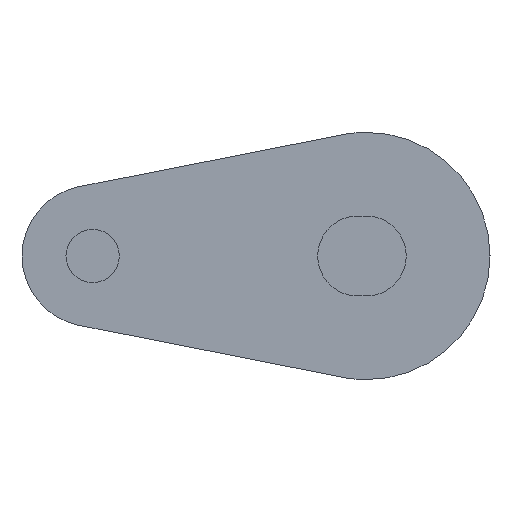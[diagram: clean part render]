
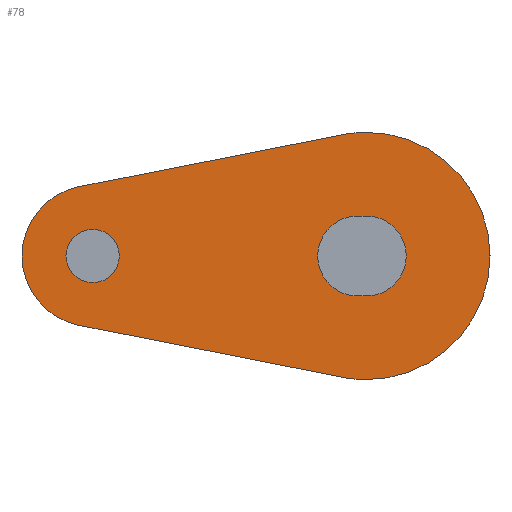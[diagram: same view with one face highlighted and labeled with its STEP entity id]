
A CAD part, left-side view. The second image highlights one B-rep face of the part: STEP entity #78.
In plain terms, the highlighted planar face has unit normal (-1, 0, 0).
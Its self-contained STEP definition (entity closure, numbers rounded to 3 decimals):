
#12 = CIRCLE ( 'NONE', #102, 7. ) ;
#13 = VECTOR ( 'NONE', #944, 1000. ) ;
#29 = CIRCLE ( 'NONE', #147, 7. ) ;
#41 = LINE ( 'NONE', #943, #13 ) ;
#78 = ADVANCED_FACE ( 'NONE', ( #577, #574, #572 ), #345, .T. ) ;
#89 = AXIS2_PLACEMENT_3D ( 'NONE', #339, #337, #336 ) ;
#93 = EDGE_CURVE ( 'NONE', #487, #467, #559, .T. ) ;
#102 = AXIS2_PLACEMENT_3D ( 'NONE', #986, #960, #976 ) ;
#113 = EDGE_CURVE ( 'NONE', #467, #465, #538, .T. ) ;
#117 = EDGE_CURVE ( 'NONE', #432, #428, #531, .T. ) ;
#132 = AXIS2_PLACEMENT_3D ( 'NONE', #268, #261, #260 ) ;
#136 = EDGE_CURVE ( 'NONE', #461, #473, #525, .T. ) ;
#137 = EDGE_CURVE ( 'NONE', #409, #487, #518, .T. ) ;
#147 = AXIS2_PLACEMENT_3D ( 'NONE', #1001, #896, #936 ) ;
#149 = AXIS2_PLACEMENT_3D ( 'NONE', #835, #834, #973 ) ;
#154 = AXIS2_PLACEMENT_3D ( 'NONE', #921, #820, #819 ) ;
#164 = EDGE_CURVE ( 'NONE', #412, #443, #513, .T. ) ;
#176 = EDGE_CURVE ( 'NONE', #490, #430, #500, .T. ) ;
#181 = EDGE_CURVE ( 'NONE', #465, #409, #41, .T. ) ;
#185 = AXIS2_PLACEMENT_3D ( 'NONE', #916, #926, #928 ) ;
#196 = EDGE_CURVE ( 'NONE', #430, #432, #29, .T. ) ;
#216 = AXIS2_PLACEMENT_3D ( 'NONE', #276, #270, #269 ) ;
#217 = EDGE_CURVE ( 'NONE', #428, #461, #12, .T. ) ;
#226 = AXIS2_PLACEMENT_3D ( 'NONE', #927, #932, #933 ) ;
#233 = EDGE_CURVE ( 'NONE', #473, #490, #1070, .T. ) ;
#236 = EDGE_CURVE ( 'NONE', #443, #412, #1066, .T. ) ;
#260 = DIRECTION ( 'NONE',  ( 0., 0., -1. ) ) ;
#261 = DIRECTION ( 'NONE',  ( 1., 0., 0. ) ) ;
#268 = CARTESIAN_POINT ( 'NONE',  ( -432.5, 0., 0. ) ) ;
#269 = DIRECTION ( 'NONE',  ( 0., 0., -1. ) ) ;
#270 = DIRECTION ( 'NONE',  ( 1., 0., 0. ) ) ;
#276 = CARTESIAN_POINT ( 'NONE',  ( -432.5, 0., 0. ) ) ;
#301 = DIRECTION ( 'NONE',  ( 0., -1., 0. ) ) ;
#313 = CARTESIAN_POINT ( 'NONE',  ( -432.5, 0.5, 2.26 ) ) ;
#336 = DIRECTION ( 'NONE',  ( 0., 0., -1. ) ) ;
#337 = DIRECTION ( 'NONE',  ( -1., 0., 0. ) ) ;
#339 = CARTESIAN_POINT ( 'NONE',  ( -432.5, 15.5, 0. ) ) ;
#345 = PLANE ( 'NONE',  #89 ) ;
#409 = VERTEX_POINT ( 'NONE', #1020 ) ;
#412 = VERTEX_POINT ( 'NONE', #1005 ) ;
#428 = VERTEX_POINT ( 'NONE', #828 ) ;
#430 = VERTEX_POINT ( 'NONE', #875 ) ;
#432 = VERTEX_POINT ( 'NONE', #842 ) ;
#443 = VERTEX_POINT ( 'NONE', #825 ) ;
#461 = VERTEX_POINT ( 'NONE', #818 ) ;
#465 = VERTEX_POINT ( 'NONE', #996 ) ;
#467 = VERTEX_POINT ( 'NONE', #873 ) ;
#473 = VERTEX_POINT ( 'NONE', #867 ) ;
#487 = VERTEX_POINT ( 'NONE', #869 ) ;
#490 = VERTEX_POINT ( 'NONE', #843 ) ;
#498 = VECTOR ( 'NONE', #850, 1000. ) ;
#500 = LINE ( 'NONE', #810, #498 ) ;
#513 = CIRCLE ( 'NONE', #154, 1.51 ) ;
#518 = CIRCLE ( 'NONE', #149, 2.26 ) ;
#521 = VECTOR ( 'NONE', #893, 1000. ) ;
#525 = LINE ( 'NONE', #899, #521 ) ;
#531 = CIRCLE ( 'NONE', #132, 7. ) ;
#538 = CIRCLE ( 'NONE', #216, 2.26 ) ;
#559 = LINE ( 'NONE', #313, #562 ) ;
#562 = VECTOR ( 'NONE', #301, 1000. ) ;
#572 = FACE_OUTER_BOUND ( 'NONE', #664, .T. ) ;
#574 = FACE_BOUND ( 'NONE', #718, .T. ) ;
#577 = FACE_BOUND ( 'NONE', #717, .T. ) ;
#664 = EDGE_LOOP ( 'NONE', ( #1047, #1033, #1035, #1034, #1032, #1056 ) ) ;
#717 = EDGE_LOOP ( 'NONE', ( #1061, #1060, #1053, #1042 ) ) ;
#718 = EDGE_LOOP ( 'NONE', ( #1036, #1046 ) ) ;
#810 = CARTESIAN_POINT ( 'NONE',  ( -432.5, 16.274, 3.924 ) ) ;
#818 = CARTESIAN_POINT ( 'NONE',  ( -432.5, 1.355, -6.868 ) ) ;
#819 = DIRECTION ( 'NONE',  ( 0., 0., -1. ) ) ;
#820 = DIRECTION ( 'NONE',  ( 1., 0., 0. ) ) ;
#825 = CARTESIAN_POINT ( 'NONE',  ( -432.5, 15.5, 1.51 ) ) ;
#828 = CARTESIAN_POINT ( 'NONE',  ( -432.5, 0., -7. ) ) ;
#834 = DIRECTION ( 'NONE',  ( 1., 0., 0. ) ) ;
#835 = CARTESIAN_POINT ( 'NONE',  ( -432.5, 0.5, 0. ) ) ;
#842 = CARTESIAN_POINT ( 'NONE',  ( -432.5, 0., 7. ) ) ;
#843 = CARTESIAN_POINT ( 'NONE',  ( -432.5, 16.274, 3.924 ) ) ;
#850 = DIRECTION ( 'NONE',  ( 0., -0.981, 0.194 ) ) ;
#867 = CARTESIAN_POINT ( 'NONE',  ( -432.5, 16.274, -3.924 ) ) ;
#869 = CARTESIAN_POINT ( 'NONE',  ( -432.5, 0.5, 2.26 ) ) ;
#873 = CARTESIAN_POINT ( 'NONE',  ( -432.5, 0., 2.26 ) ) ;
#875 = CARTESIAN_POINT ( 'NONE',  ( -432.5, 1.355, 6.868 ) ) ;
#893 = DIRECTION ( 'NONE',  ( 0., 0.981, 0.194 ) ) ;
#896 = DIRECTION ( 'NONE',  ( 1., 0., 0. ) ) ;
#899 = CARTESIAN_POINT ( 'NONE',  ( -432.5, 1.355, -6.868 ) ) ;
#916 = CARTESIAN_POINT ( 'NONE',  ( -432.5, 15.5, 0. ) ) ;
#921 = CARTESIAN_POINT ( 'NONE',  ( -432.5, 15.5, 0. ) ) ;
#926 = DIRECTION ( 'NONE',  ( 1., 0., 0. ) ) ;
#927 = CARTESIAN_POINT ( 'NONE',  ( -432.5, 15.5, 0. ) ) ;
#928 = DIRECTION ( 'NONE',  ( 0., 0., -1. ) ) ;
#932 = DIRECTION ( 'NONE',  ( 1., 0., 0. ) ) ;
#933 = DIRECTION ( 'NONE',  ( 0., 0., -1. ) ) ;
#936 = DIRECTION ( 'NONE',  ( 0., 0., -1. ) ) ;
#943 = CARTESIAN_POINT ( 'NONE',  ( -432.5, 0.5, -2.26 ) ) ;
#944 = DIRECTION ( 'NONE',  ( 0., 1., 0. ) ) ;
#960 = DIRECTION ( 'NONE',  ( 1., 0., 0. ) ) ;
#973 = DIRECTION ( 'NONE',  ( 0., 0., -1. ) ) ;
#976 = DIRECTION ( 'NONE',  ( 0., 0., -1. ) ) ;
#986 = CARTESIAN_POINT ( 'NONE',  ( -432.5, 0., 0. ) ) ;
#996 = CARTESIAN_POINT ( 'NONE',  ( -432.5, 0., -2.26 ) ) ;
#1001 = CARTESIAN_POINT ( 'NONE',  ( -432.5, 0., 0. ) ) ;
#1005 = CARTESIAN_POINT ( 'NONE',  ( -432.5, 15.5, -1.51 ) ) ;
#1020 = CARTESIAN_POINT ( 'NONE',  ( -432.5, 0.5, -2.26 ) ) ;
#1032 = ORIENTED_EDGE ( 'NONE', *, *, #196, .F. ) ;
#1033 = ORIENTED_EDGE ( 'NONE', *, *, #136, .F. ) ;
#1034 = ORIENTED_EDGE ( 'NONE', *, *, #117, .F. ) ;
#1035 = ORIENTED_EDGE ( 'NONE', *, *, #217, .F. ) ;
#1036 = ORIENTED_EDGE ( 'NONE', *, *, #164, .T. ) ;
#1042 = ORIENTED_EDGE ( 'NONE', *, *, #181, .T. ) ;
#1046 = ORIENTED_EDGE ( 'NONE', *, *, #236, .T. ) ;
#1047 = ORIENTED_EDGE ( 'NONE', *, *, #233, .F. ) ;
#1053 = ORIENTED_EDGE ( 'NONE', *, *, #113, .T. ) ;
#1056 = ORIENTED_EDGE ( 'NONE', *, *, #176, .F. ) ;
#1060 = ORIENTED_EDGE ( 'NONE', *, *, #93, .T. ) ;
#1061 = ORIENTED_EDGE ( 'NONE', *, *, #137, .T. ) ;
#1066 = CIRCLE ( 'NONE', #226, 1.51 ) ;
#1070 = CIRCLE ( 'NONE', #185, 4. ) ;
